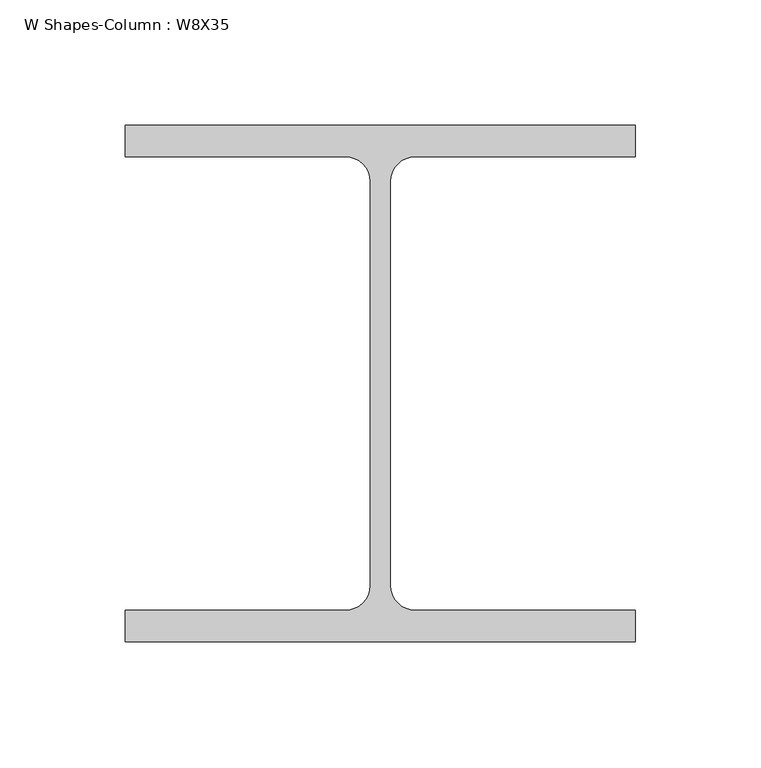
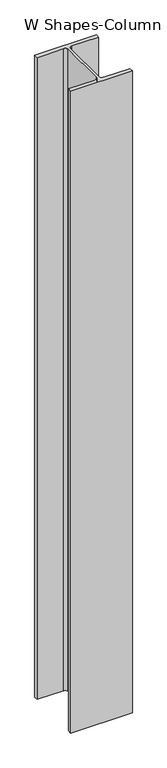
"""IFC4 building model written with IfcOpenShell, lengths in millimetres: column geometry, W Shapes-Column : W8X35."""

from ifc_helpers import new_model, si_unit, point, frame, frame_2d, origin, place, context, project, spatial, polyline, circle_curve, trimmed, segment, composite_curve, outline, extrude, source, transform, mapped, element, save


def w_shapes_column_w8x35_9181672f(model_context):
    return source(origin(), model_context, "Body", "SweptSolid", [
        extrude(outline(composite_curve([segment(polyline([(101.854, 103.124), (101.854, 90.551), (13.9446, 90.551)]), True, "CONTINUOUS"), segment(trimmed(circle_curve(frame_2d((13.9446, 80.5434)), 10.0076), [point((13.9446, 90.551))], [point((3.937, 80.5434))], True, "CARTESIAN"), True, "CONTINUOUS"), segment(polyline([(3.937, 80.5434), (3.937, -80.5434)]), True, "CONTINUOUS"), segment(trimmed(circle_curve(frame_2d((13.9446, -80.5434)), 10.0076), [point((3.937, -80.5434))], [point((13.9446, -90.551))], True, "CARTESIAN"), True, "CONTINUOUS"), segment(polyline([(13.9446, -90.551), (101.854, -90.551), (101.854, -103.124), (-101.854, -103.124), (-101.854, -90.551), (-13.9446, -90.551)]), True, "CONTINUOUS"), segment(trimmed(circle_curve(frame_2d((-13.9446, -80.5434)), 10.0076), [point((-13.9446, -90.551))], [point((-3.937, -80.5434))], True, "CARTESIAN"), True, "CONTINUOUS"), segment(polyline([(-3.937, -80.5434), (-3.937, 80.5434)]), True, "CONTINUOUS"), segment(trimmed(circle_curve(frame_2d((-13.9446, 80.5434)), 10.0076), [point((-3.937, 80.5434))], [point((-13.9446, 90.551))], True, "CARTESIAN"), True, "CONTINUOUS"), segment(polyline([(-13.9446, 90.551), (-101.854, 90.551), (-101.854, 103.124), (101.854, 103.124)]), True, "CONTINUOUS")], self_intersect=False)), frame((0.0, 0.0, -2743.2), z_axis=(0.0, 0.0, 1.0), x_axis=(1.0, 0.0, 0.0)), (0.0, 0.0, 1.0), 2243.2),
    ])


if __name__ == "__main__":
    model = new_model("IFC4")
    model_context = context("Model", 3, world=origin())
    ifc_project = project(units=[si_unit("LENGTHUNIT", "METRE", prefix="MILLI")], contexts=[model_context])
    site = spatial("IfcSite", under=ifc_project)
    building = spatial("IfcBuilding", under=site)
    placement = place(None, origin())
    w_shapes_column_w8x35_shape = w_shapes_column_w8x35_9181672f(model_context)
    element("IfcColumn", 1, ObjectType="W Shapes-Column : W8X35", at=placement, inside=building, context=model_context, shape_type="MappedRepresentation", body=[
        mapped(w_shapes_column_w8x35_shape, transform((0.0, 0.0, 0.0), x_axis=(1.0, 0.0, 0.0), y_axis=(0.0, 1.0, 0.0), z_axis=(0.0, 0.0, 1.0))),
    ])
    save(model, "model.ifc")
